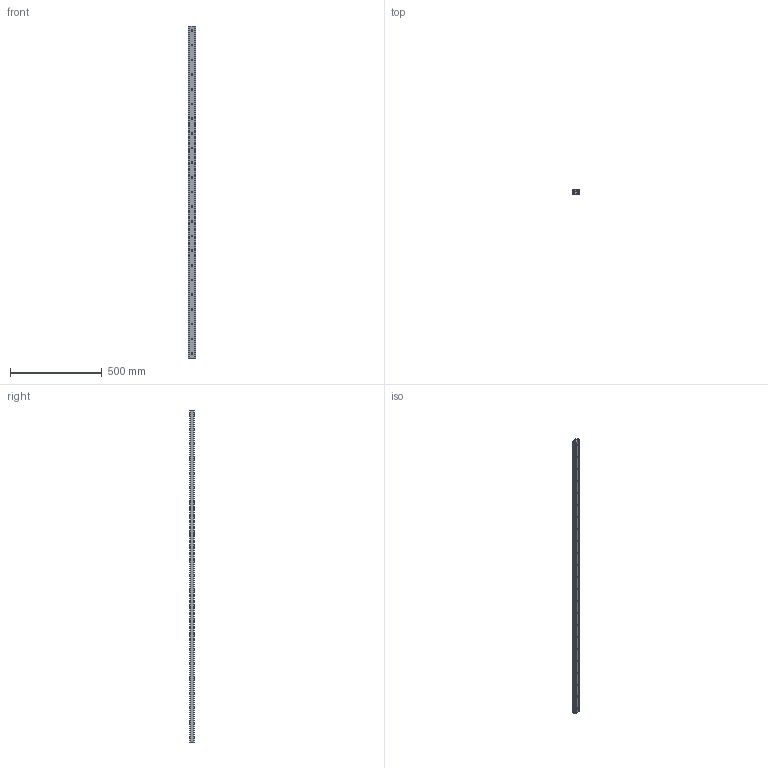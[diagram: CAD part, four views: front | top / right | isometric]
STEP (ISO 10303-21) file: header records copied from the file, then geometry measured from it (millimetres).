
FILE_DESCRIPTION(('STEP AP214'),'1');
FILE_NAME('rail_asn43-1810_00.stp','2017-06-06T10:19:21',('TraceParts'),('TraceParts S.A.'),'Spatial InterOp 3D',' ',' ');
FILE_SCHEMA(('automotive_design'));
Length unit declared in the file: millimetre
Products named in the file (2): rail_asn43-1810_00_1; rail_asn43-1810_00_2
Bounding box: 43 x 22.01 x 1810 mm (x, y, z)
Volume: 1101619.6 mm3; surface area: 425622 mm2
Topology: 2 solids, 2 shells, 307 faces, 756 edges, 458 vertices
Faces by surface type: cone 138, cylinder 123, plane 46
Entity records: 9284 total; most frequent: DIRECTION 1758, CARTESIAN_POINT 1523, ORIENTED_EDGE 1512, EDGE_CURVE 756, AXIS2_PLACEMENT_3D 693, VERTEX_POINT 458, EDGE_LOOP 404, CIRCLE 384
